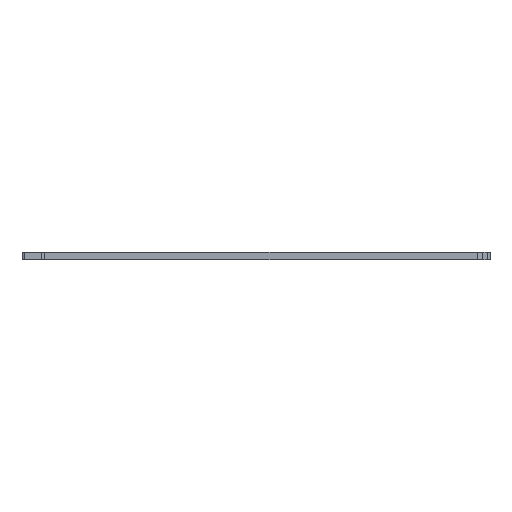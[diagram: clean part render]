
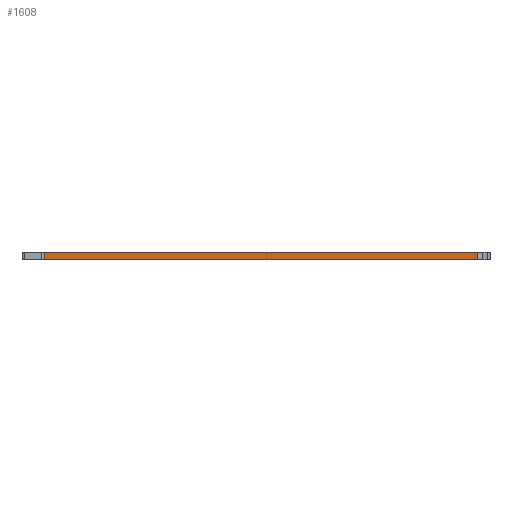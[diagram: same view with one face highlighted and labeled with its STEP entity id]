
A CAD part, left-side view. The second image highlights one B-rep face of the part: STEP entity #1608.
In plain terms, the highlighted planar face has unit normal (-1, 0, 0).
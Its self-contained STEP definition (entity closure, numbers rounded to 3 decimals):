
#104=DIRECTION('',(0.,-1.,0.));
#105=VECTOR('',#104,151.5);
#106=CARTESIAN_POINT('',(-129.,156.,-1.25));
#107=LINE('',#106,#105);
#375=DIRECTION('',(0.,-1.,0.));
#376=VECTOR('',#375,151.5);
#377=CARTESIAN_POINT('',(-129.,156.,1.25));
#378=LINE('',#377,#376);
#605=DIRECTION('',(0.,0.,-1.));
#606=VECTOR('',#605,2.5);
#607=CARTESIAN_POINT('',(-129.,4.5,1.25));
#608=LINE('',#607,#606);
#609=DIRECTION('',(0.,0.,1.));
#610=VECTOR('',#609,2.5);
#611=CARTESIAN_POINT('',(-129.,156.,-1.25));
#612=LINE('',#611,#610);
#637=CARTESIAN_POINT('',(-129.,156.,-1.25));
#638=CARTESIAN_POINT('',(-129.,156.,1.25));
#639=VERTEX_POINT('',#637);
#640=VERTEX_POINT('',#638);
#650=CARTESIAN_POINT('',(-129.,4.5,-1.25));
#652=VERTEX_POINT('',#650);
#653=CARTESIAN_POINT('',(-129.,4.5,1.25));
#654=VERTEX_POINT('',#653);
#1596=CARTESIAN_POINT('',(-129.,164.,-1.25));
#1597=DIRECTION('',(-1.,0.,0.));
#1598=DIRECTION('',(0.,-1.,0.));
#1599=AXIS2_PLACEMENT_3D('',#1596,#1597,#1598);
#1600=PLANE('',#1599);
#1601=ORIENTED_EDGE('',*,*,#1589,.T.);
#1602=ORIENTED_EDGE('',*,*,#846,.F.);
#1604=ORIENTED_EDGE('',*,*,#1603,.T.);
#1605=ORIENTED_EDGE('',*,*,#1052,.T.);
#1606=EDGE_LOOP('',(#1601,#1602,#1604,#1605));
#1607=FACE_OUTER_BOUND('',#1606,.F.);
#846=EDGE_CURVE('',#639,#652,#107,.T.);
#1052=EDGE_CURVE('',#640,#654,#378,.T.);
#1589=EDGE_CURVE('',#654,#652,#608,.T.);
#1603=EDGE_CURVE('',#639,#640,#612,.T.);
#1608=ADVANCED_FACE('',(#1607),#1600,.T.);
